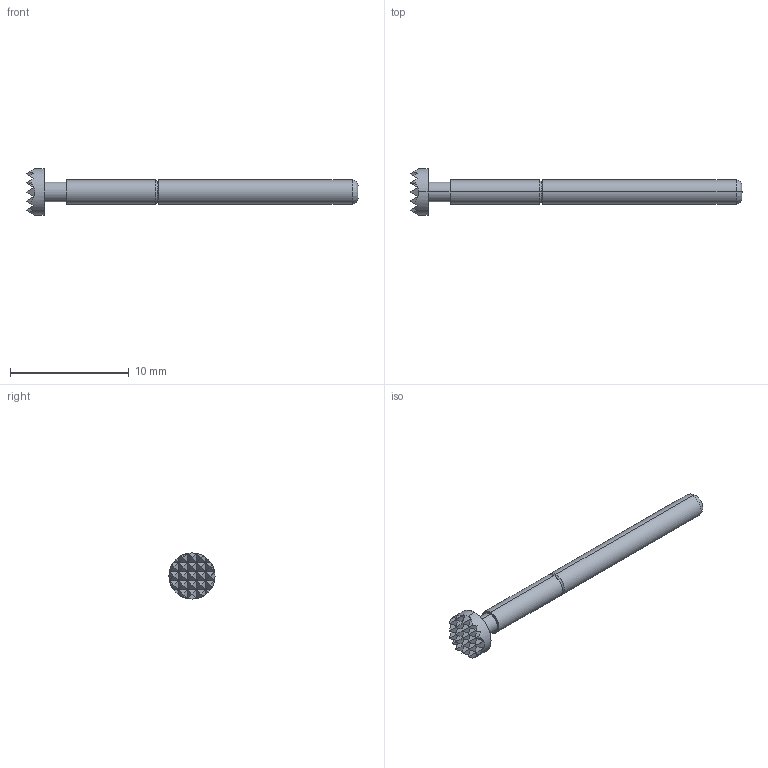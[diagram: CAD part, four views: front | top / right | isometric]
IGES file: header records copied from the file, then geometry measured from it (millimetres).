
Start section: SolidWorks IGES file using analytic representation for surfaces
Global section: file name: O:\PYLON\IGES FILES\P2665\P2665G-2W1S REC'D.IGS; native system: SolidWorks 2015; preprocessor: SolidWorks 2015; author: kgolden; date: 171019.141311; units: inch
Bounding box: 28.01 x 3.89 x 3.89 mm (x, y, z)
Surface area: 225 mm2 (no closed solid volume)
Topology: 0 solids, 0 shells, 103 faces, 494 edges, 494 vertices
Faces by surface type: bspline 93, revolution 10
